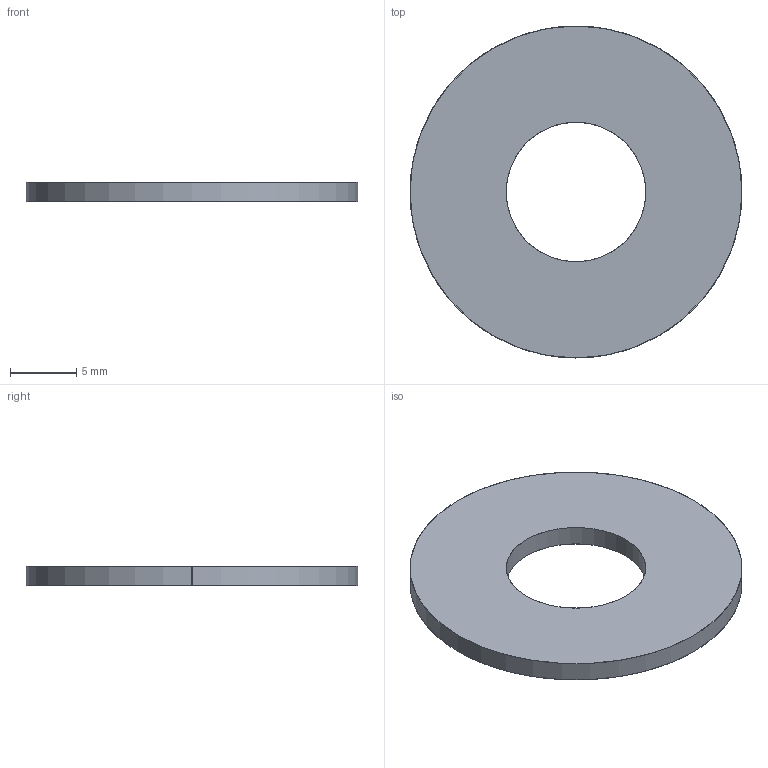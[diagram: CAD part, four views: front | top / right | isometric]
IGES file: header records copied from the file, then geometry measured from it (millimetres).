
Start section: SolidWorks IGES file using analytic representation for surfaces
Global section: file name: C:\Users\liam_\OneDrive\Desktop\Work\Mat Davis Pending 20181125\automotion\P SERIES\P0333.A4_v2\P0333.A4_v2_20181217_IGES\P0333.100-025-A4.igs; native system: SolidWorks 2017; preprocessor: SolidWorks 2017; author: liam_; date: 181217.190900; units: millimetre
Bounding box: 25 x 25 x 1.5 mm (x, y, z)
Surface area: 975.9 mm2 (no closed solid volume)
Topology: 0 solids, 0 shells, 6 faces, 144 edges, 144 vertices
Faces by surface type: revolution 4, bspline 2
